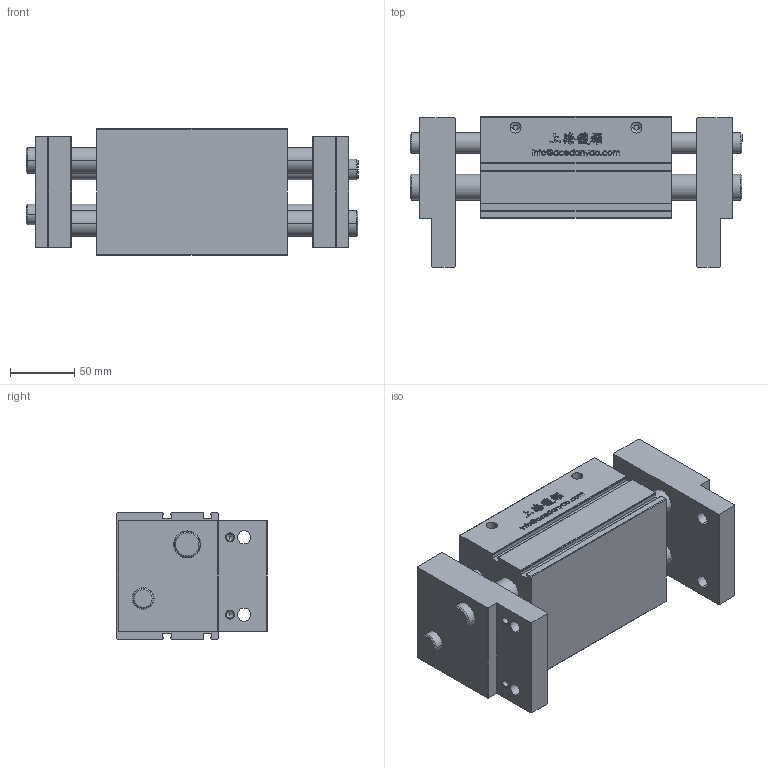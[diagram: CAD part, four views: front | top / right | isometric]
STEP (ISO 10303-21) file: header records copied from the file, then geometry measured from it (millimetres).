
FILE_DESCRIPTION (( 'STEP AP203' ), '1' );
FILE_NAME ('PLE-40-C-50+50-原始檔-組合-W106.04.20.STEP', '2017-04-20T07:08:21', ( 'DanyaoCAD' ), ( '' ), 'SwSTEP 2.0', 'SolidWorks 2016', '' );
FILE_SCHEMA (( 'CONFIG_CONTROL_DESIGN' ));
Length unit declared in the file: millimetre
Products named in the file (3): Griffa; Corpo; PLE-40-C-50+50-原始檔-組合-W106.04.20
Assembly tree (3 placements, depth 2):
  PLE-40-C-50+50-原始檔-組合-W106.04.20
    Griffa  x2
    Corpo
Bounding box: 258 x 117 x 98 mm (x, y, z)
Volume: 1646343.9 mm3; surface area: 229567.1 mm2
Topology: 3 solids, 3 shells, 1018 faces, 2825 edges, 1848 vertices
Faces by surface type: bspline 640, plane 238, cylinder 79, cone 61
Entity records: 47862 total; most frequent: CARTESIAN_POINT 26939, ORIENTED_EDGE 5396, EDGE_CURVE 2698, DIRECTION 2221, VERTEX_POINT 1784, B_SPLINE_CURVE_WITH_KNOTS 1300, LINE 1257, VECTOR 1257
